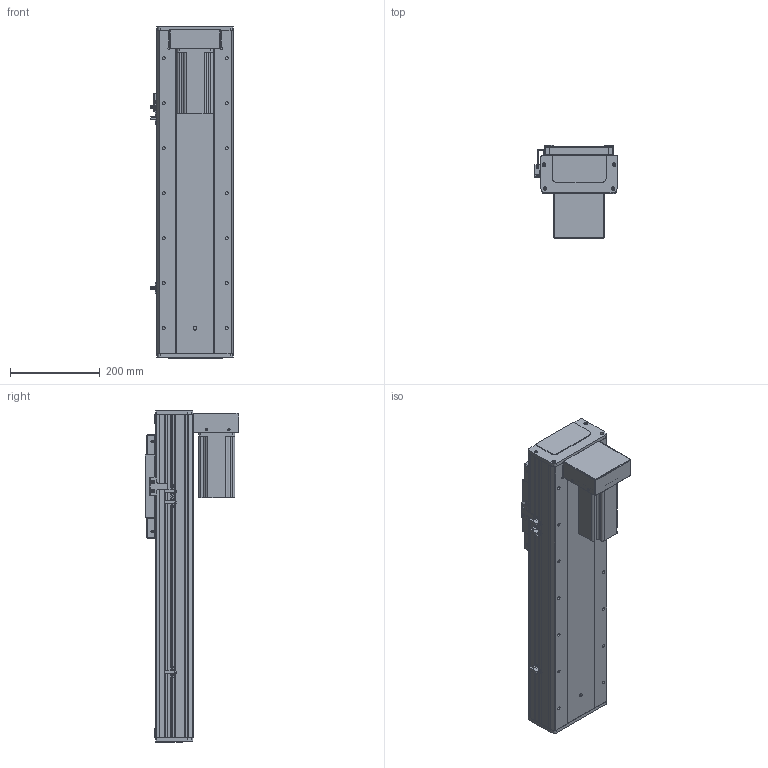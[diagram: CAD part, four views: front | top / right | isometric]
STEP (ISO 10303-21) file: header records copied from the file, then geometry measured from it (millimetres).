
FILE_DESCRIPTION (( 'STEP AP203' ), '1' );
FILE_NAME ('RY170F-L2010-300-BK.SLDASM_400.step', '2021-03-02T08:55:44', ( '盈信电脑' ), ( '东莞市道滘镇水果街19号' ), 'SwSTEP 2.0', 'SolidWorks 2012', '' );
FILE_SCHEMA (( 'CONFIG_CONTROL_DESIGN' ));
Length unit declared in the file: millimetre
Products named in the file (20): RY170F-L2010-300-BK.SLDASM_400; RY170狟殏詩湍假蚾輸; RY170F狟殏萇儂欶; 侐源滅袉蝶; RY170F-狟殏萇儂假蚾啣(750W); 怢湛750W萇儂ㄗ80遺ㄘ; 滅袉蝶18-24; RY170F俋离覜茼え; RY170F-詩湍揤踡輸; RY170F-揤踡謫假蚾粣; RY170F-綴裔啣; RY100F-詩湍揤踡謫; 覜茼ん672; 滅袉蝶18-10; RY170F-丝杆铝滑块连接板; RY170F-佪裝臏賑輸20蹟譫; RY170F-300眻蟀倰第菁釱-BK_400; RY170F-滅鳥奻裔; RY170F-300眻蟀倰第奻裔啣-BK_400; RY170F-300眻蟀祥凄詩湍-MK_400
Assembly tree (25 placements, depth 2):
  RY170F-L2010-300-BK.SLDASM_400
    RY170F-300眻蟀祥凄詩湍-MK_400
    RY170F-300眻蟀倰第奻裔啣-BK_400  x2
    RY170F-滅鳥奻裔
    RY170F-300眻蟀倰第菁釱-BK_400
    RY170F-佪裝臏賑輸20蹟譫
    RY170F-丝杆铝滑块连接板
    滅袉蝶18-10
    RY100F-詩湍揤踡謫
    RY170F-綴裔啣  x2
    覜茼ん672  x3
    RY170F俋离覜茼え
    RY170F-揤踡謫假蚾粣
    RY170F-詩湍揤踡輸  x2
    滅袉蝶18-24
    侐源滅袉蝶  x2
    RY170F-狟殏萇儂假蚾啣(750W)
    怢湛750W萇儂ㄗ80遺ㄘ
    RY170F狟殏萇儂欶
    RY170狟殏詩湍假蚾輸
Bounding box: 183.7 x 208 x 738 mm (x, y, z)
Volume: 5060218 mm3; surface area: 1579863.9 mm2
Topology: 25 solids, 25 shells, 1798 faces, 4981 edges, 3174 vertices
Faces by surface type: cylinder 848, plane 762, cone 184, bspline 4
Entity records: 50212 total; most frequent: CARTESIAN_POINT 10066, DIRECTION 8110, ORIENTED_EDGE 7750, EDGE_CURVE 3875, AXIS2_PLACEMENT_3D 2914, VERTEX_POINT 2530, LINE 2282, VECTOR 2282
